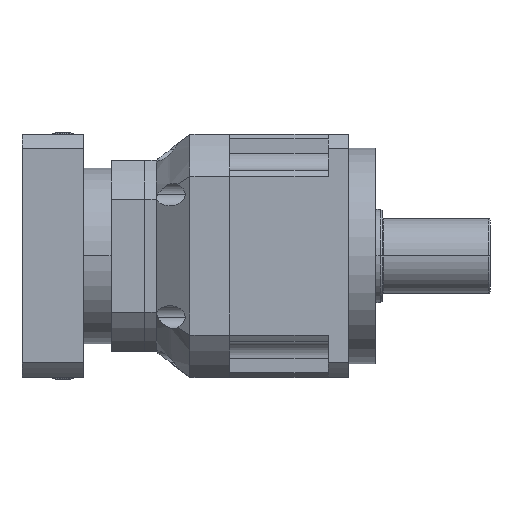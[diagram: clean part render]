
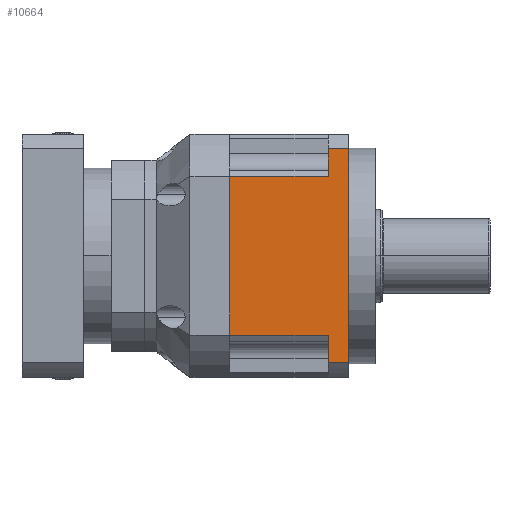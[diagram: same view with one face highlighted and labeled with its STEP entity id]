
A CAD part, top view. The second image highlights one B-rep face of the part: STEP entity #10664.
In plain terms, the highlighted planar face has unit normal (0, 0, 1).
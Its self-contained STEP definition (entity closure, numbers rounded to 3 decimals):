
#463 = EDGE_CURVE ( 'NONE', #26460, #23594, #14377, .T. ) ;
#981 = ORIENTED_EDGE ( 'NONE', *, *, #13412, .T. ) ;
#1526 = VECTOR ( 'NONE', #25632, 1000. ) ;
#2697 = VECTOR ( 'NONE', #21953, 1000. ) ;
#2864 = CARTESIAN_POINT ( 'NONE',  ( 88., 120., 90. ) ) ;
#3650 = VECTOR ( 'NONE', #8505, 1000. ) ;
#3765 = LINE ( 'NONE', #2864, #25204 ) ;
#3836 = EDGE_CURVE ( 'NONE', #8956, #23158, #5478, .T. ) ;
#4064 = PLANE ( 'NONE',  #23023 ) ;
#4125 = EDGE_LOOP ( 'NONE', ( #981, #25341, #26566, #16984, #19653, #15517, #17096, #24699 ) ) ;
#5071 = FACE_OUTER_BOUND ( 'NONE', #4125, .T. ) ;
#5478 = LINE ( 'NONE', #7560, #26900 ) ;
#6033 = CARTESIAN_POINT ( 'NONE',  ( 73., -58.79, 90. ) ) ;
#6440 = CARTESIAN_POINT ( 'NONE',  ( 97.7, 58.79, 90. ) ) ;
#7560 = CARTESIAN_POINT ( 'NONE',  ( 97.7, -58.79, 90. ) ) ;
#8505 = DIRECTION ( 'NONE',  ( -1., 0., 0. ) ) ;
#8926 = CARTESIAN_POINT ( 'NONE',  ( 0., -58.79, 90. ) ) ;
#8948 = VECTOR ( 'NONE', #13561, 1000. ) ;
#8956 = VERTEX_POINT ( 'NONE', #8926 ) ;
#8990 = EDGE_CURVE ( 'NONE', #21876, #15020, #24320, .T. ) ;
#9611 = LINE ( 'NONE', #23950, #8948 ) ;
#9765 = CARTESIAN_POINT ( 'NONE',  ( 88., 79.373, 90. ) ) ;
#10483 = LINE ( 'NONE', #6440, #3650 ) ;
#10664 = ADVANCED_FACE ( 'NONE', ( #5071 ), #4064, .F. ) ;
#12398 = DIRECTION ( 'NONE',  ( 0., 1., 0. ) ) ;
#12985 = VERTEX_POINT ( 'NONE', #9765 ) ;
#13412 = EDGE_CURVE ( 'NONE', #23594, #20268, #10483, .T. ) ;
#13561 = DIRECTION ( 'NONE',  ( 0., -1., 0. ) ) ;
#13735 = LINE ( 'NONE', #19870, #2697 ) ;
#13786 = VECTOR ( 'NONE', #19925, 1000. ) ;
#14121 = CARTESIAN_POINT ( 'NONE',  ( 0., 58.79, 90. ) ) ;
#14377 = LINE ( 'NONE', #17778, #24776 ) ;
#15020 = VERTEX_POINT ( 'NONE', #25407 ) ;
#15517 = ORIENTED_EDGE ( 'NONE', *, *, #25731, .T. ) ;
#16984 = ORIENTED_EDGE ( 'NONE', *, *, #18751, .T. ) ;
#17096 = ORIENTED_EDGE ( 'NONE', *, *, #18784, .T. ) ;
#17778 = CARTESIAN_POINT ( 'NONE',  ( 73., 107.5, 90. ) ) ;
#18751 = EDGE_CURVE ( 'NONE', #23158, #21876, #9611, .T. ) ;
#18784 = EDGE_CURVE ( 'NONE', #12985, #26460, #19325, .T. ) ;
#19266 = CARTESIAN_POINT ( 'NONE',  ( 97.7, -79.373, 90. ) ) ;
#19325 = LINE ( 'NONE', #21922, #13786 ) ;
#19619 = CARTESIAN_POINT ( 'NONE',  ( 73., 79.373, 90. ) ) ;
#19653 = ORIENTED_EDGE ( 'NONE', *, *, #8990, .T. ) ;
#19778 = EDGE_CURVE ( 'NONE', #20268, #8956, #13735, .T. ) ;
#19867 = DIRECTION ( 'NONE',  ( 0., -1., 0. ) ) ;
#19870 = CARTESIAN_POINT ( 'NONE',  ( 0., 84.502, 90. ) ) ;
#19925 = DIRECTION ( 'NONE',  ( -1., 0., 0. ) ) ;
#20268 = VERTEX_POINT ( 'NONE', #14121 ) ;
#20664 = CARTESIAN_POINT ( 'NONE',  ( 108., 84.502, 90. ) ) ;
#21552 = DIRECTION ( 'NONE',  ( 0., 1., 0. ) ) ;
#21876 = VERTEX_POINT ( 'NONE', #25464 ) ;
#21922 = CARTESIAN_POINT ( 'NONE',  ( 97.7, 79.373, 90. ) ) ;
#21953 = DIRECTION ( 'NONE',  ( 0., -1., 0. ) ) ;
#22056 = DIRECTION ( 'NONE',  ( 1., 0., 0. ) ) ;
#23023 = AXIS2_PLACEMENT_3D ( 'NONE', #20664, #24847, #12398 ) ;
#23158 = VERTEX_POINT ( 'NONE', #6033 ) ;
#23594 = VERTEX_POINT ( 'NONE', #24600 ) ;
#23950 = CARTESIAN_POINT ( 'NONE',  ( 73., 107.5, 90. ) ) ;
#24320 = LINE ( 'NONE', #19266, #1526 ) ;
#24600 = CARTESIAN_POINT ( 'NONE',  ( 73., 58.79, 90. ) ) ;
#24699 = ORIENTED_EDGE ( 'NONE', *, *, #463, .T. ) ;
#24776 = VECTOR ( 'NONE', #19867, 1000. ) ;
#24847 = DIRECTION ( 'NONE',  ( 0., 0., -1. ) ) ;
#25204 = VECTOR ( 'NONE', #21552, 1000. ) ;
#25341 = ORIENTED_EDGE ( 'NONE', *, *, #19778, .T. ) ;
#25407 = CARTESIAN_POINT ( 'NONE',  ( 88., -79.373, 90. ) ) ;
#25464 = CARTESIAN_POINT ( 'NONE',  ( 73., -79.373, 90. ) ) ;
#25632 = DIRECTION ( 'NONE',  ( 1., 0., 0. ) ) ;
#25731 = EDGE_CURVE ( 'NONE', #15020, #12985, #3765, .T. ) ;
#26460 = VERTEX_POINT ( 'NONE', #19619 ) ;
#26566 = ORIENTED_EDGE ( 'NONE', *, *, #3836, .T. ) ;
#26900 = VECTOR ( 'NONE', #22056, 1000. ) ;
